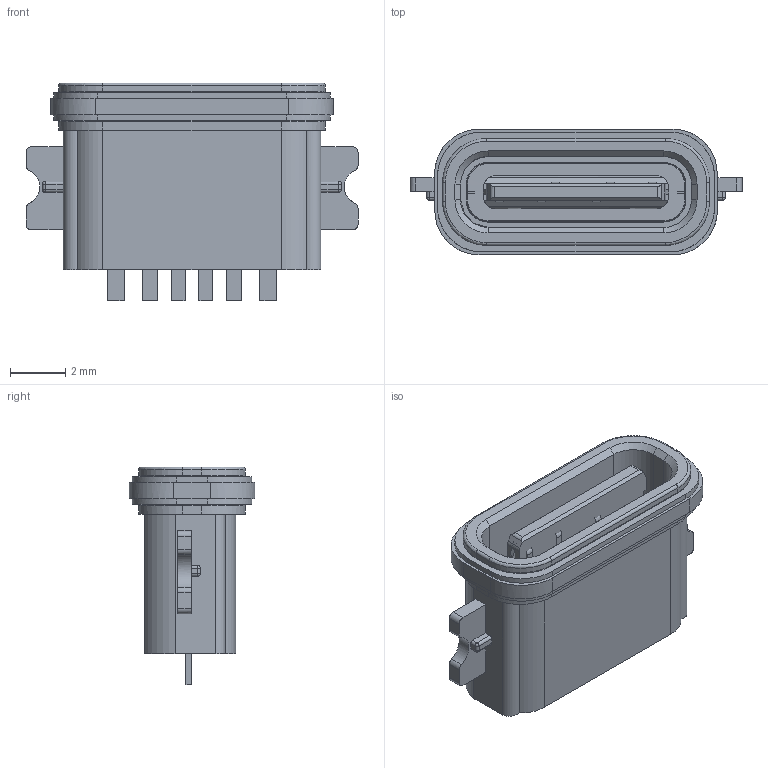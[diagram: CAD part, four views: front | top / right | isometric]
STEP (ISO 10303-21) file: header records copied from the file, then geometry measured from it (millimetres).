
FILE_DESCRIPTION((' '),'2;1');
FILE_NAME( 'U5199-06PN1.6C1.0Z6.75LF.stp', '2026-05-14T09:57:43', (' '), ('--- ---'), ' V2026.1 Dec 31 2025', ' 2026 (c)', ' ');
FILE_SCHEMA(('AP242_MANAGED_MODEL_BASED_3D_ENGINEERING_MIM_LF { 1 0 10303 442 1 1 4 }'));
Length unit declared in the file: millimetre
Products named in the file (1): U5199-06PN1.6C1.0Z6.75LF
Bounding box: 11.99 x 4.53 x 7.87 mm (x, y, z)
Volume: 130.7 mm3; surface area: 662.1 mm2
Topology: 14 solids, 17 shells, 655 faces, 1855 edges, 1226 vertices
Faces by surface type: plane 393, bspline 262
Entity records: 22930 total; most frequent: CARTESIAN_POINT 8112, ORIENTED_EDGE 3696, DIRECTION 2135, EDGE_CURVE 1851, VECTOR 1345, LINE 1345, VERTEX_POINT 1226, EDGE_LOOP 674
